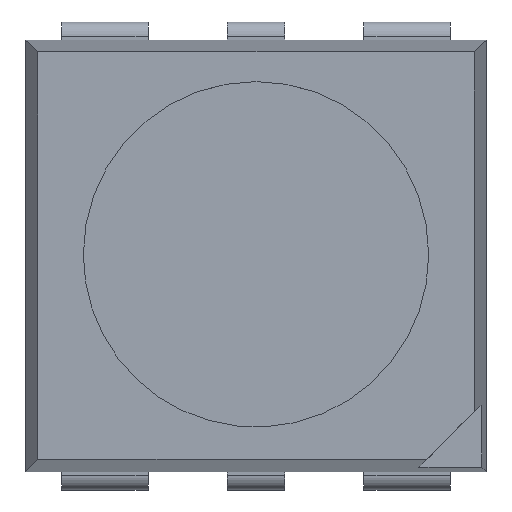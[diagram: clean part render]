
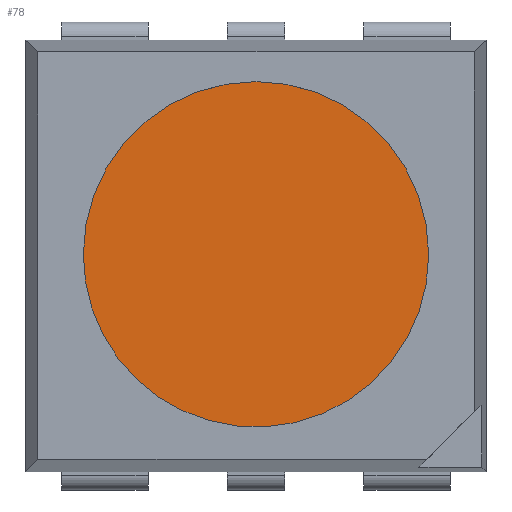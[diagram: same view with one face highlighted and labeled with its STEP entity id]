
A CAD part, top view. The second image highlights one B-rep face of the part: STEP entity #78.
In plain terms, the highlighted planar face has unit normal (0, 0, 1).
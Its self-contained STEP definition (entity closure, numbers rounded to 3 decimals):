
#78=ADVANCED_FACE('',(#206),#207,.T.);
#206=FACE_OUTER_BOUND('',#457,.T.);
#207=PLANE('',#458);
#457=EDGE_LOOP('',(#725,#726,#727));
#458=AXIS2_PLACEMENT_3D('',#728,#729,#730);
#725=ORIENTED_EDGE('',*,*,#1747,.F.);
#726=ORIENTED_EDGE('',*,*,#1746,.F.);
#727=ORIENTED_EDGE('',*,*,#1756,.F.);
#728=CARTESIAN_POINT('',(-0.6,0.01,-0.01));
#729=DIRECTION('',(0.,0.,1.0));
#730=DIRECTION('',(1.0,0.,0.0));
#1746=EDGE_CURVE('',#2083,#2085,#2086,.T.);
#1747=EDGE_CURVE('',#2085,#2077,#2087,.T.);
#1756=EDGE_CURVE('',#2077,#2083,#2104,.T.);
#2077=VERTEX_POINT('',#2624);
#2083=VERTEX_POINT('',#2631);
#2085=VERTEX_POINT('',#2634);
#2086=CIRCLE('',#2635,1.2);
#2087=CIRCLE('',#2636,1.2);
#2104=CIRCLE('',#2657,1.2);
#2624=CARTESIAN_POINT('',(-1.2,0.01,-0.01));
#2631=CARTESIAN_POINT('',(1.2,0.01,-0.01));
#2634=CARTESIAN_POINT('',(-0.514,-1.075,-0.01));
#2635=AXIS2_PLACEMENT_3D('',#3462,#3463,#3464);
#2636=AXIS2_PLACEMENT_3D('',#3465,#3466,#3467);
#2657=AXIS2_PLACEMENT_3D('',#3484,#3485,#3486);
#3462=CARTESIAN_POINT('',(0.,0.01,-0.01));
#3463=DIRECTION('',(0.,0.,-1.0));
#3464=DIRECTION('',(-1.0,0.,0.));
#3465=CARTESIAN_POINT('',(0.,0.01,-0.01));
#3466=DIRECTION('',(0.,0.,-1.0));
#3467=DIRECTION('',(-1.0,0.,0.));
#3484=CARTESIAN_POINT('',(0.,0.01,-0.01));
#3485=DIRECTION('',(0.,0.,-1.0));
#3486=DIRECTION('',(-1.0,0.,0.));
